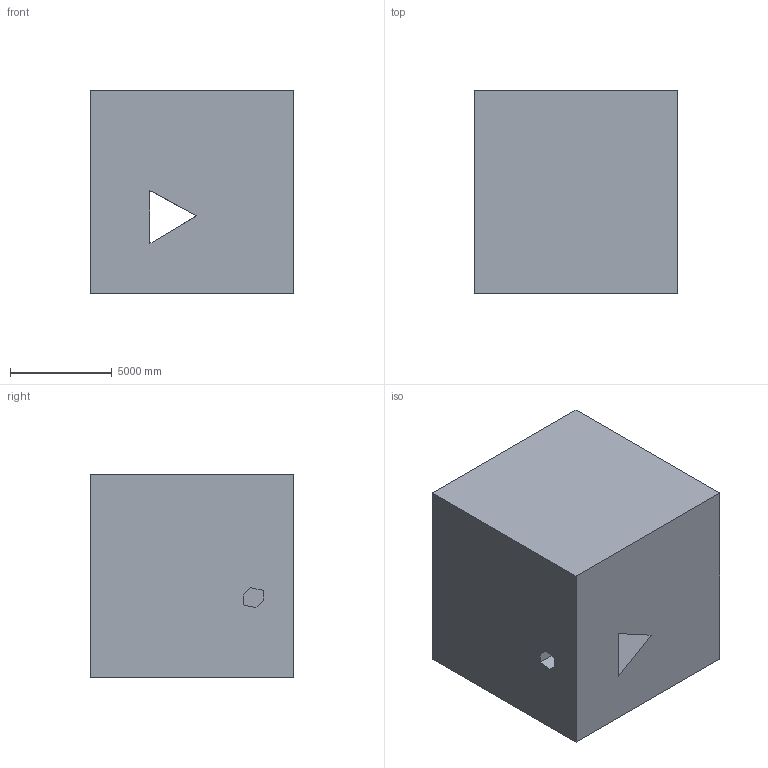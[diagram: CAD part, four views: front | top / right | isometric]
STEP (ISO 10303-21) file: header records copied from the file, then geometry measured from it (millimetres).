
FILE_DESCRIPTION (( 'STEP AP203' ), '1' );
FILE_NAME ('107.STEP', '2022-09-05T15:33:14', ( 'user' ), ( '' ), 'SwSTEP 2.0', 'SolidWorks 2021', '' );
FILE_SCHEMA (( 'CONFIG_CONTROL_DESIGN' ));
Length unit declared in the file: centimetre
Products named in the file (1): 107
Bounding box: 10000 x 10000 x 10000 mm (x, y, z)
Volume: 967013015299.3 mm3; surface area: 685041539.2 mm2
Topology: 1 solids, 1 shells, 22 faces, 60 edges, 40 vertices
Faces by surface type: plane 22
Entity records: 769 total; most frequent: CARTESIAN_POINT 123, ORIENTED_EDGE 120, DIRECTION 106, VECTOR 60, EDGE_CURVE 60, LINE 60, VERTEX_POINT 40, EDGE_LOOP 26
